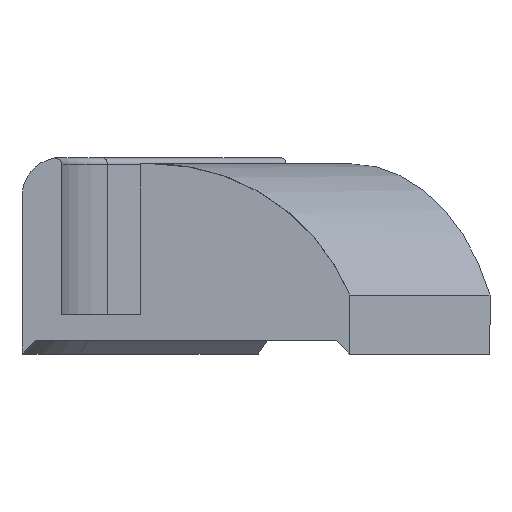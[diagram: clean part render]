
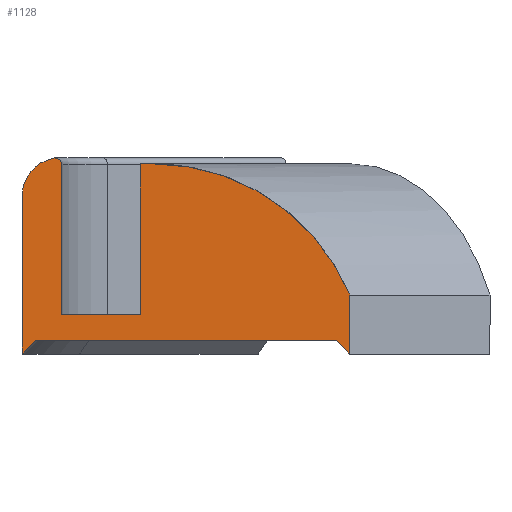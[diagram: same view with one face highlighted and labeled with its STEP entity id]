
A CAD part, front view. The second image highlights one B-rep face of the part: STEP entity #1128.
In plain terms, the highlighted planar face has unit normal (0, -1, 0).
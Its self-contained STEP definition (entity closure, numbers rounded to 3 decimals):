
#2 = EDGE_CURVE ( 'NONE', #105, #606, #262, .T. ) ;
#16 = VECTOR ( 'NONE', #1078, 1000. ) ;
#28 = EDGE_CURVE ( 'NONE', #685, #530, #1076, .T. ) ;
#44 = DIRECTION ( 'NONE',  ( -1., 0., 0. ) ) ;
#49 = DIRECTION ( 'NONE',  ( -1., 0., 0. ) ) ;
#55 = DIRECTION ( 'NONE',  ( 0., -1., 0. ) ) ;
#59 = LINE ( 'NONE', #959, #759 ) ;
#63 = CARTESIAN_POINT ( 'NONE',  ( -12.5, 0., -1. ) ) ;
#91 = EDGE_CURVE ( 'NONE', #212, #685, #292, .T. ) ;
#105 = VERTEX_POINT ( 'NONE', #985 ) ;
#130 = VERTEX_POINT ( 'NONE', #1167 ) ;
#136 = ORIENTED_EDGE ( 'NONE', *, *, #91, .T. ) ;
#141 = AXIS2_PLACEMENT_3D ( 'NONE', #502, #55, #44 ) ;
#143 = CARTESIAN_POINT ( 'NONE',  ( -3.5, 0., 2. ) ) ;
#163 = CARTESIAN_POINT ( 'NONE',  ( -9.5, 0., 2. ) ) ;
#185 = ORIENTED_EDGE ( 'NONE', *, *, #2, .T. ) ;
#190 = CARTESIAN_POINT ( 'NONE',  ( 12.5, 0., -1. ) ) ;
#212 = VERTEX_POINT ( 'NONE', #337 ) ;
#215 = CARTESIAN_POINT ( 'NONE',  ( 12.5, 0., 0. ) ) ;
#232 = DIRECTION ( 'NONE',  ( 1., 0., 0. ) ) ;
#243 = VERTEX_POINT ( 'NONE', #163 ) ;
#258 = EDGE_CURVE ( 'NONE', #1192, #440, #526, .T. ) ;
#260 = VECTOR ( 'NONE', #49, 1000. ) ;
#262 = LINE ( 'NONE', #541, #342 ) ;
#263 = ORIENTED_EDGE ( 'NONE', *, *, #641, .T. ) ;
#272 = ORIENTED_EDGE ( 'NONE', *, *, #476, .T. ) ;
#278 = CARTESIAN_POINT ( 'NONE',  ( 12.5, 0., 2. ) ) ;
#282 = ORIENTED_EDGE ( 'NONE', *, *, #696, .F. ) ;
#291 = CARTESIAN_POINT ( 'NONE',  ( -9.5, 0., 2. ) ) ;
#292 = LINE ( 'NONE', #897, #260 ) ;
#294 = DIRECTION ( 'NONE',  ( 1., 0., 0. ) ) ;
#332 = ORIENTED_EDGE ( 'NONE', *, *, #929, .T. ) ;
#337 = CARTESIAN_POINT ( 'NONE',  ( -2.5, 0., 13.5 ) ) ;
#342 = VECTOR ( 'NONE', #742, 1000. ) ;
#402 = EDGE_CURVE ( 'NONE', #702, #903, #936, .T. ) ;
#404 = AXIS2_PLACEMENT_3D ( 'NONE', #683, #689, #706 ) ;
#436 = ORIENTED_EDGE ( 'NONE', *, *, #1191, .T. ) ;
#438 = AXIS2_PLACEMENT_3D ( 'NONE', #457, #547, #557 ) ;
#440 = VERTEX_POINT ( 'NONE', #190 ) ;
#457 = CARTESIAN_POINT ( 'NONE',  ( 12.5, 0., 2. ) ) ;
#476 = EDGE_CURVE ( 'NONE', #1192, #212, #584, .T. ) ;
#479 = CARTESIAN_POINT ( 'NONE',  ( -11.5, 0., 0. ) ) ;
#501 = ORIENTED_EDGE ( 'NONE', *, *, #834, .T. ) ;
#502 = CARTESIAN_POINT ( 'NONE',  ( -10., 0., 13.449 ) ) ;
#506 = VECTOR ( 'NONE', #737, 1000. ) ;
#508 = ORIENTED_EDGE ( 'NONE', *, *, #28, .T. ) ;
#526 = LINE ( 'NONE', #747, #506 ) ;
#530 = VERTEX_POINT ( 'NONE', #854 ) ;
#532 = PLANE ( 'NONE',  #438 ) ;
#541 = CARTESIAN_POINT ( 'NONE',  ( -12.5, 0., 2. ) ) ;
#543 = EDGE_LOOP ( 'NONE', ( #858, #501, #263, #185, #332, #695, #436, #1066, #272, #136, #508, #282 ) ) ;
#547 = DIRECTION ( 'NONE',  ( 0., 1., 0. ) ) ;
#554 = VECTOR ( 'NONE', #294, 1000. ) ;
#557 = DIRECTION ( 'NONE',  ( -1., 0., 0. ) ) ;
#584 = CIRCLE ( 'NONE', #404, 16.25 ) ;
#585 = CARTESIAN_POINT ( 'NONE',  ( -3.5, 0., 13.5 ) ) ;
#587 = EDGE_CURVE ( 'NONE', #243, #934, #1215, .T. ) ;
#606 = VERTEX_POINT ( 'NONE', #63 ) ;
#641 = EDGE_CURVE ( 'NONE', #130, #105, #1140, .T. ) ;
#658 = CIRCLE ( 'NONE', #141, 0.5 ) ;
#683 = CARTESIAN_POINT ( 'NONE',  ( -2.5, 0., -2.75 ) ) ;
#685 = VERTEX_POINT ( 'NONE', #585 ) ;
#689 = DIRECTION ( 'NONE',  ( 0., -1., 0. ) ) ;
#693 = CARTESIAN_POINT ( 'NONE',  ( -9.5, 0., 11. ) ) ;
#695 = ORIENTED_EDGE ( 'NONE', *, *, #402, .T. ) ;
#696 = EDGE_CURVE ( 'NONE', #243, #530, #1039, .T. ) ;
#699 = DIRECTION ( 'NONE',  ( 0., -1., 0. ) ) ;
#702 = VERTEX_POINT ( 'NONE', #479 ) ;
#706 = DIRECTION ( 'NONE',  ( 1., 0., 0. ) ) ;
#717 = DIRECTION ( 'NONE',  ( 1., 0., 0. ) ) ;
#728 = CARTESIAN_POINT ( 'NONE',  ( 12.5, 0., -1. ) ) ;
#732 = FACE_OUTER_BOUND ( 'NONE', #543, .T. ) ;
#737 = DIRECTION ( 'NONE',  ( 0., 0., -1. ) ) ;
#742 = DIRECTION ( 'NONE',  ( 0., 0., -1. ) ) ;
#747 = CARTESIAN_POINT ( 'NONE',  ( 12.5, 0., 2. ) ) ;
#751 = CARTESIAN_POINT ( 'NONE',  ( 12.5, 0., 3.5 ) ) ;
#753 = DIRECTION ( 'NONE',  ( 0.707, 0., -0.707 ) ) ;
#759 = VECTOR ( 'NONE', #1071, 1000. ) ;
#789 = CARTESIAN_POINT ( 'NONE',  ( 11.5, 0., 0. ) ) ;
#834 = EDGE_CURVE ( 'NONE', #934, #130, #658, .T. ) ;
#854 = CARTESIAN_POINT ( 'NONE',  ( -3.5, 0., 2. ) ) ;
#858 = ORIENTED_EDGE ( 'NONE', *, *, #587, .T. ) ;
#871 = CARTESIAN_POINT ( 'NONE',  ( -9.5, 0., 13.449 ) ) ;
#897 = CARTESIAN_POINT ( 'NONE',  ( -3.5, 0., 13.5 ) ) ;
#903 = VERTEX_POINT ( 'NONE', #789 ) ;
#904 = VECTOR ( 'NONE', #753, 1000. ) ;
#929 = EDGE_CURVE ( 'NONE', #606, #702, #59, .T. ) ;
#934 = VERTEX_POINT ( 'NONE', #871 ) ;
#936 = LINE ( 'NONE', #215, #1127 ) ;
#959 = CARTESIAN_POINT ( 'NONE',  ( -12.5, 0., -1. ) ) ;
#985 = CARTESIAN_POINT ( 'NONE',  ( -12.5, 0., 11. ) ) ;
#987 = VECTOR ( 'NONE', #1141, 1000. ) ;
#1039 = LINE ( 'NONE', #278, #554 ) ;
#1041 = AXIS2_PLACEMENT_3D ( 'NONE', #693, #699, #717 ) ;
#1066 = ORIENTED_EDGE ( 'NONE', *, *, #258, .F. ) ;
#1071 = DIRECTION ( 'NONE',  ( 0.707, 0., 0.707 ) ) ;
#1076 = LINE ( 'NONE', #143, #16 ) ;
#1078 = DIRECTION ( 'NONE',  ( 0., 0., -1. ) ) ;
#1127 = VECTOR ( 'NONE', #232, 1000. ) ;
#1128 = ADVANCED_FACE ( 'NONE', ( #732 ), #532, .F. ) ;
#1140 = CIRCLE ( 'NONE', #1041, 3. ) ;
#1141 = DIRECTION ( 'NONE',  ( 0., 0., 1. ) ) ;
#1148 = LINE ( 'NONE', #728, #904 ) ;
#1167 = CARTESIAN_POINT ( 'NONE',  ( -10.1, 0., 13.939 ) ) ;
#1191 = EDGE_CURVE ( 'NONE', #903, #440, #1148, .T. ) ;
#1192 = VERTEX_POINT ( 'NONE', #751 ) ;
#1215 = LINE ( 'NONE', #291, #987 ) ;
